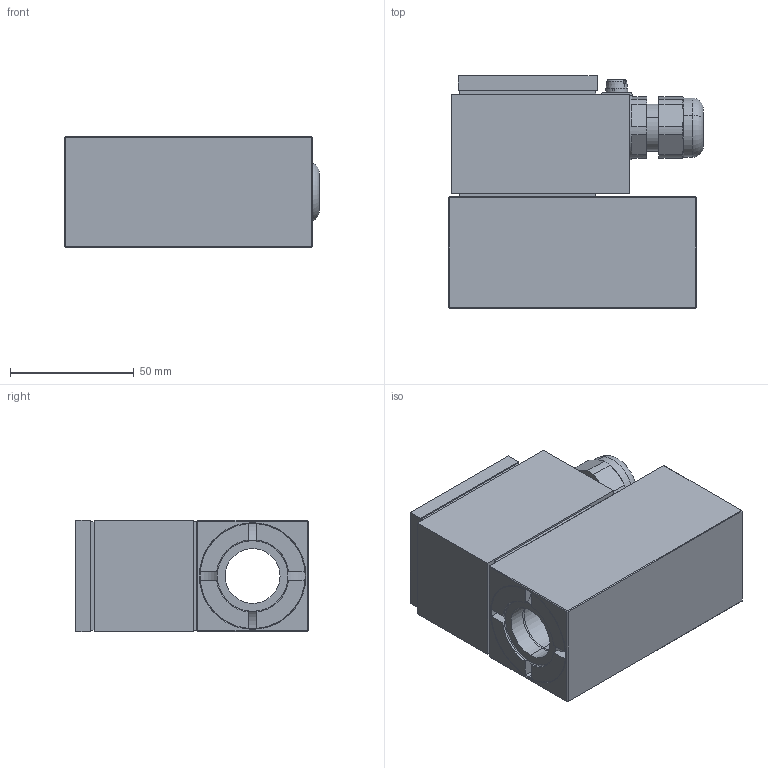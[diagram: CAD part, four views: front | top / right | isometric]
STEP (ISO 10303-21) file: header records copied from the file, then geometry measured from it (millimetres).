
FILE_DESCRIPTION (( 'STEP AP214' ), '1' );
FILE_NAME ('MKZ45.STEP', '2017-03-01T14:36:48', ( '' ), ( '' ), 'SwSTEP 2.0', 'SolidWorks 2016', '' );
FILE_SCHEMA (( 'AUTOMOTIVE_DESIGN' ));
Length unit declared in the file: millimetre
Products named in the file (1): MKZ45
Bounding box: 103 x 94 x 45 mm (x, y, z)
Volume: 318120 mm3; surface area: 74321.6 mm2
Topology: 21 solids, 21 shells, 475 faces, 1124 edges, 701 vertices
Faces by surface type: plane 232, cylinder 134, cone 66, torus 43
Entity records: 19304 total; most frequent: CARTESIAN_POINT 2731, DIRECTION 2425, ORIENTED_EDGE 2220, EDGE_CURVE 1110, AXIS2_PLACEMENT_3D 935, VERTEX_POINT 701, VECTOR 555, LINE 555
